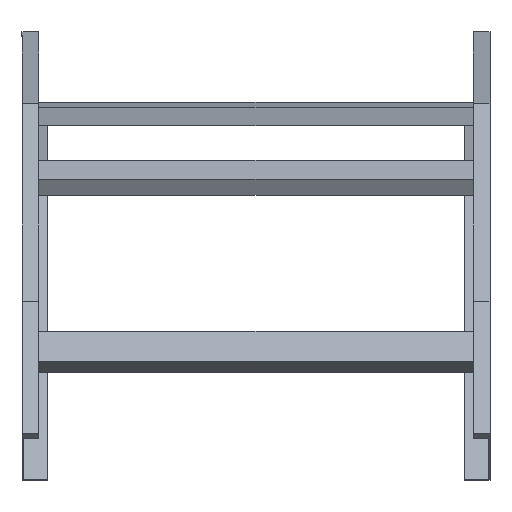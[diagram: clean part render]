
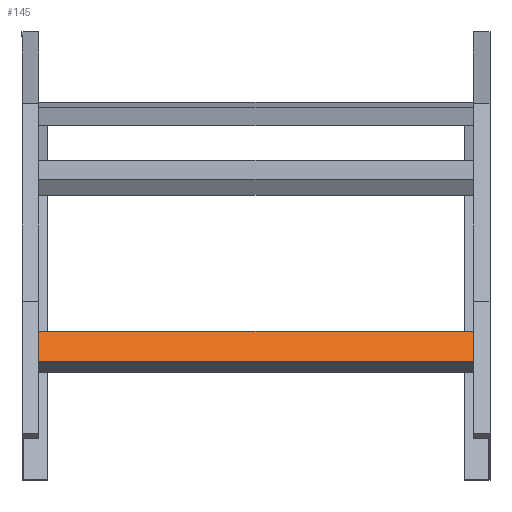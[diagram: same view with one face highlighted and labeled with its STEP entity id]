
A CAD part, top view. The second image highlights one B-rep face of the part: STEP entity #145.
In plain terms, the highlighted planar face has unit normal (0, 0.609, 0.793) as drawn and (0, 1, 0) by its records, which use the part's own axes.
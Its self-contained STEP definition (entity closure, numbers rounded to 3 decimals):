
#62 = DIRECTION ( 'NONE',  ( -1., 0., 0. ) ) ;
#75 = CARTESIAN_POINT ( 'NONE',  ( 248., 20., 20.25 ) ) ;
#81 = EDGE_CURVE ( 'NONE', #1609, #1129, #1416, .T. ) ;
#143 = EDGE_CURVE ( 'NONE', #635, #1129, #535, .T. ) ;
#145 = ADVANCED_FACE ( 'NONE', ( #698 ), #1211, .F. ) ;
#245 = CARTESIAN_POINT ( 'NONE',  ( -248., 20., 20.25 ) ) ;
#276 = DIRECTION ( 'NONE',  ( 0., -1., 0. ) ) ;
#387 = CARTESIAN_POINT ( 'NONE',  ( -248., 20., -20.25 ) ) ;
#489 = VECTOR ( 'NONE', #774, 1000. ) ;
#535 = LINE ( 'NONE', #662, #1520 ) ;
#538 = ORIENTED_EDGE ( 'NONE', *, *, #143, .F. ) ;
#545 = ORIENTED_EDGE ( 'NONE', *, *, #1574, .T. ) ;
#609 = DIRECTION ( 'NONE',  ( 0., 0., 1. ) ) ;
#615 = EDGE_LOOP ( 'NONE', ( #785, #538, #974, #545 ) ) ;
#631 = EDGE_CURVE ( 'NONE', #795, #635, #1249, .T. ) ;
#635 = VERTEX_POINT ( 'NONE', #871 ) ;
#662 = CARTESIAN_POINT ( 'NONE',  ( 248., 20., 20.25 ) ) ;
#698 = FACE_OUTER_BOUND ( 'NONE', #615, .T. ) ;
#774 = DIRECTION ( 'NONE',  ( 0., 0., 1. ) ) ;
#785 = ORIENTED_EDGE ( 'NONE', *, *, #81, .T. ) ;
#795 = VERTEX_POINT ( 'NONE', #994 ) ;
#871 = CARTESIAN_POINT ( 'NONE',  ( 248., 20., 20.25 ) ) ;
#895 = CARTESIAN_POINT ( 'NONE',  ( -248., 20., 20.25 ) ) ;
#920 = DIRECTION ( 'NONE',  ( 0., 0., -1. ) ) ;
#966 = LINE ( 'NONE', #1473, #1025 ) ;
#974 = ORIENTED_EDGE ( 'NONE', *, *, #631, .F. ) ;
#994 = CARTESIAN_POINT ( 'NONE',  ( 248., 20., -20.25 ) ) ;
#1025 = VECTOR ( 'NONE', #62, 1000. ) ;
#1043 = CARTESIAN_POINT ( 'NONE',  ( 248., 20., 20.25 ) ) ;
#1048 = VECTOR ( 'NONE', #609, 1000. ) ;
#1129 = VERTEX_POINT ( 'NONE', #895 ) ;
#1175 = DIRECTION ( 'NONE',  ( -1., 0., 0. ) ) ;
#1187 = AXIS2_PLACEMENT_3D ( 'NONE', #1043, #276, #920 ) ;
#1211 = PLANE ( 'NONE',  #1187 ) ;
#1249 = LINE ( 'NONE', #75, #1048 ) ;
#1416 = LINE ( 'NONE', #245, #489 ) ;
#1473 = CARTESIAN_POINT ( 'NONE',  ( 248., 20., -20.25 ) ) ;
#1520 = VECTOR ( 'NONE', #1175, 1000. ) ;
#1574 = EDGE_CURVE ( 'NONE', #795, #1609, #966, .T. ) ;
#1609 = VERTEX_POINT ( 'NONE', #387 ) ;
